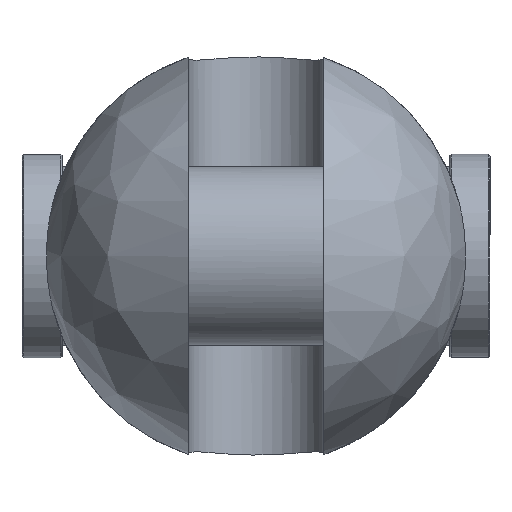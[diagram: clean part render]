
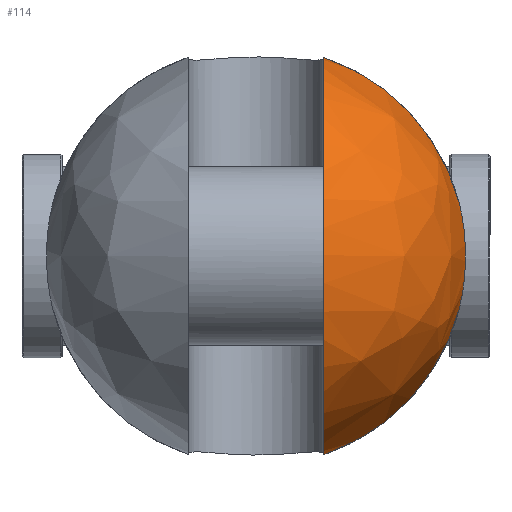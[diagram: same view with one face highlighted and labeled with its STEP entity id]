
A CAD part, left-side view. The second image highlights one B-rep face of the part: STEP entity #114.
In plain terms, the highlighted free-form (B-spline) face has degree [2, 2] with [9, 5] control points.
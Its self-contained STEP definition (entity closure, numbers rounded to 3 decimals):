
#114=ADVANCED_FACE('',(#202),#1535,.T.);
#202=FACE_OUTER_BOUND('',#302,.T.);
#302=EDGE_LOOP('',(#746,#747,#748,#749));
#746=ORIENTED_EDGE('',*,*,#1005,.T.);
#747=ORIENTED_EDGE('',*,*,#1002,.F.);
#748=ORIENTED_EDGE('',*,*,#1021,.T.);
#749=ORIENTED_EDGE('',*,*,#994,.F.);
#994=EDGE_CURVE('',#1425,#1426,#1256,.T.);
#1002=EDGE_CURVE('',#1433,#1434,#1257,.T.);
#1005=EDGE_CURVE('',#1425,#1434,#1259,.T.);
#1021=EDGE_CURVE('',#1433,#1426,#1130,.T.);
#1130=B_SPLINE_CURVE_WITH_KNOTS('',3,(#3652,#3653,#3654,#3655,#3656,#3657,
#3658,#3659,#3660,#3661,#3662,#3663,#3664,#3665),.UNSPECIFIED.,.F.,.F.,
(4,2,2,2,2,2,4),(0.,4.71,11.288,17.866,
24.445,31.023,35.733),.UNSPECIFIED.);
#1256=(
BOUNDED_CURVE()
B_SPLINE_CURVE(2,(#3504,#3505,#3506),.UNSPECIFIED.,.F.,.F.)
B_SPLINE_CURVE_WITH_KNOTS((3,3),(0.,67.328),.UNSPECIFIED.)
CURVE()
GEOMETRIC_REPRESENTATION_ITEM()
RATIONAL_B_SPLINE_CURVE((1.,0.88,1.))
REPRESENTATION_ITEM('')
);
#1257=(
BOUNDED_CURVE()
B_SPLINE_CURVE(2,(#3561,#3562,#3563),.UNSPECIFIED.,.F.,.F.)
B_SPLINE_CURVE_WITH_KNOTS((3,3),(0.,67.328),.UNSPECIFIED.)
CURVE()
GEOMETRIC_REPRESENTATION_ITEM()
RATIONAL_B_SPLINE_CURVE((1.,0.88,1.))
REPRESENTATION_ITEM('')
);
#1259=(
BOUNDED_CURVE()
B_SPLINE_CURVE(2,(#3569,#3570,#3571,#3572,#3573),.UNSPECIFIED.,.F.,.F.)
B_SPLINE_CURVE_WITH_KNOTS((3,2,3),(-202.139,-101.069,0.),
 .UNSPECIFIED.)
CURVE()
GEOMETRIC_REPRESENTATION_ITEM()
RATIONAL_B_SPLINE_CURVE((1.,0.707,1.,0.707,1.))
REPRESENTATION_ITEM('')
);
#1425=VERTEX_POINT('',#3302);
#1426=VERTEX_POINT('',#3303);
#1433=VERTEX_POINT('',#3310);
#1434=VERTEX_POINT('',#3311);
#1535=(
BOUNDED_SURFACE()
B_SPLINE_SURFACE(2,2,((#3174,#3175,#3176,#3177,#3178),(#3179,#3180,#3181,
#3182,#3183),(#3184,#3185,#3186,#3187,#3188),(#3189,#3190,#3191,#3192,#3193),
(#3194,#3195,#3196,#3197,#3198),(#3199,#3200,#3201,#3202,#3203),(#3204,
#3205,#3206,#3207,#3208),(#3209,#3210,#3211,#3212,#3213),(#3214,#3215,#3216,
#3217,#3218)),.UNSPECIFIED.,.T.,.F.,.F.)
B_SPLINE_SURFACE_WITH_KNOTS((3,2,2,2,3),(3,2,3),(0.,106.814,213.628,
320.442,427.257),(0.,106.814,213.628),
 .UNSPECIFIED.)
GEOMETRIC_REPRESENTATION_ITEM()
RATIONAL_B_SPLINE_SURFACE(((1.,0.707,1.,0.707,1.),
(0.707,0.5,0.707,0.5,0.707),(1.,0.707,
1.,0.707,1.),(0.707,0.5,0.707,0.5,0.707),
(1.,0.707,1.,0.707,1.),(0.707,0.5,0.707,
0.5,0.707),(1.,0.707,1.,0.707,1.),(0.707,
0.5,0.707,0.5,0.707),(1.,0.707,1.,0.707,
1.)))
REPRESENTATION_ITEM('')
SURFACE()
);
#3174=CARTESIAN_POINT('',(-97.5,0.,0.));
#3175=CARTESIAN_POINT('',(-97.5,68.,0.));
#3176=CARTESIAN_POINT('',(-29.5,68.,0.));
#3177=CARTESIAN_POINT('',(38.5,68.,0.));
#3178=CARTESIAN_POINT('',(38.5,0.,0.));
#3179=CARTESIAN_POINT('',(-97.5,0.,0.));
#3180=CARTESIAN_POINT('',(-97.5,68.,68.));
#3181=CARTESIAN_POINT('',(-29.5,68.,68.));
#3182=CARTESIAN_POINT('',(38.5,68.,68.));
#3183=CARTESIAN_POINT('',(38.5,0.,0.));
#3184=CARTESIAN_POINT('',(-97.5,0.,0.));
#3185=CARTESIAN_POINT('',(-97.5,0.,68.));
#3186=CARTESIAN_POINT('',(-29.5,0.,68.));
#3187=CARTESIAN_POINT('',(38.5,0.,68.));
#3188=CARTESIAN_POINT('',(38.5,0.,0.));
#3189=CARTESIAN_POINT('',(-97.5,0.,0.));
#3190=CARTESIAN_POINT('',(-97.5,-68.,68.));
#3191=CARTESIAN_POINT('',(-29.5,-68.,68.));
#3192=CARTESIAN_POINT('',(38.5,-68.,68.));
#3193=CARTESIAN_POINT('',(38.5,0.,0.));
#3194=CARTESIAN_POINT('',(-97.5,0.,0.));
#3195=CARTESIAN_POINT('',(-97.5,-68.,0.));
#3196=CARTESIAN_POINT('',(-29.5,-68.,0.));
#3197=CARTESIAN_POINT('',(38.5,-68.,0.));
#3198=CARTESIAN_POINT('',(38.5,0.,0.));
#3199=CARTESIAN_POINT('',(-97.5,0.,0.));
#3200=CARTESIAN_POINT('',(-97.5,-68.,-68.));
#3201=CARTESIAN_POINT('',(-29.5,-68.,-68.));
#3202=CARTESIAN_POINT('',(38.5,-68.,-68.));
#3203=CARTESIAN_POINT('',(38.5,0.,0.));
#3204=CARTESIAN_POINT('',(-97.5,0.,0.));
#3205=CARTESIAN_POINT('',(-97.5,0.,-68.));
#3206=CARTESIAN_POINT('',(-29.5,0.,-68.));
#3207=CARTESIAN_POINT('',(38.5,0.,-68.));
#3208=CARTESIAN_POINT('',(38.5,0.,0.));
#3209=CARTESIAN_POINT('',(-97.5,0.,0.));
#3210=CARTESIAN_POINT('',(-97.5,68.,-68.));
#3211=CARTESIAN_POINT('',(-29.5,68.,-68.));
#3212=CARTESIAN_POINT('',(38.5,68.,-68.));
#3213=CARTESIAN_POINT('',(38.5,0.,0.));
#3214=CARTESIAN_POINT('',(-97.5,0.,0.));
#3215=CARTESIAN_POINT('',(-97.5,68.,0.));
#3216=CARTESIAN_POINT('',(-29.5,68.,0.));
#3217=CARTESIAN_POINT('',(38.5,68.,0.));
#3218=CARTESIAN_POINT('',(38.5,0.,0.));
#3302=CARTESIAN_POINT('',(-29.5,-22.,64.343));
#3303=CARTESIAN_POINT('',(-29.5,-65.865,16.904));
#3310=CARTESIAN_POINT('',(-29.5,-65.865,-16.904));
#3311=CARTESIAN_POINT('',(-29.5,-22.,-64.343));
#3504=CARTESIAN_POINT('',(-29.5,-22.,64.343));
#3505=CARTESIAN_POINT('',(-29.5,-56.739,52.465));
#3506=CARTESIAN_POINT('',(-29.5,-65.865,16.904));
#3561=CARTESIAN_POINT('',(-29.5,-65.865,-16.904));
#3562=CARTESIAN_POINT('',(-29.5,-56.739,-52.465));
#3563=CARTESIAN_POINT('',(-29.5,-22.,-64.343));
#3569=CARTESIAN_POINT('',(-29.5,-22.,64.343));
#3570=CARTESIAN_POINT('',(-93.843,-22.,64.343));
#3571=CARTESIAN_POINT('',(-93.843,-22.,0.));
#3572=CARTESIAN_POINT('',(-93.843,-22.,-64.343));
#3573=CARTESIAN_POINT('',(-29.5,-22.,-64.343));
#3652=CARTESIAN_POINT('',(-29.5,-65.865,-16.904));
#3653=CARTESIAN_POINT('',(-30.268,-66.209,-15.564));
#3654=CARTESIAN_POINT('',(-30.953,-66.514,-14.155));
#3655=CARTESIAN_POINT('',(-32.357,-67.134,-10.668));
#3656=CARTESIAN_POINT('',(-32.982,-67.407,-8.542));
#3657=CARTESIAN_POINT('',(-33.803,-67.766,-4.256));
#3658=CARTESIAN_POINT('',(-34.,-67.851,-2.095));
#3659=CARTESIAN_POINT('',(-34.,-67.851,2.095));
#3660=CARTESIAN_POINT('',(-33.803,-67.766,4.256));
#3661=CARTESIAN_POINT('',(-32.982,-67.407,8.542));
#3662=CARTESIAN_POINT('',(-32.357,-67.134,10.668));
#3663=CARTESIAN_POINT('',(-30.953,-66.514,14.155));
#3664=CARTESIAN_POINT('',(-30.268,-66.209,15.564));
#3665=CARTESIAN_POINT('',(-29.5,-65.865,16.904));
